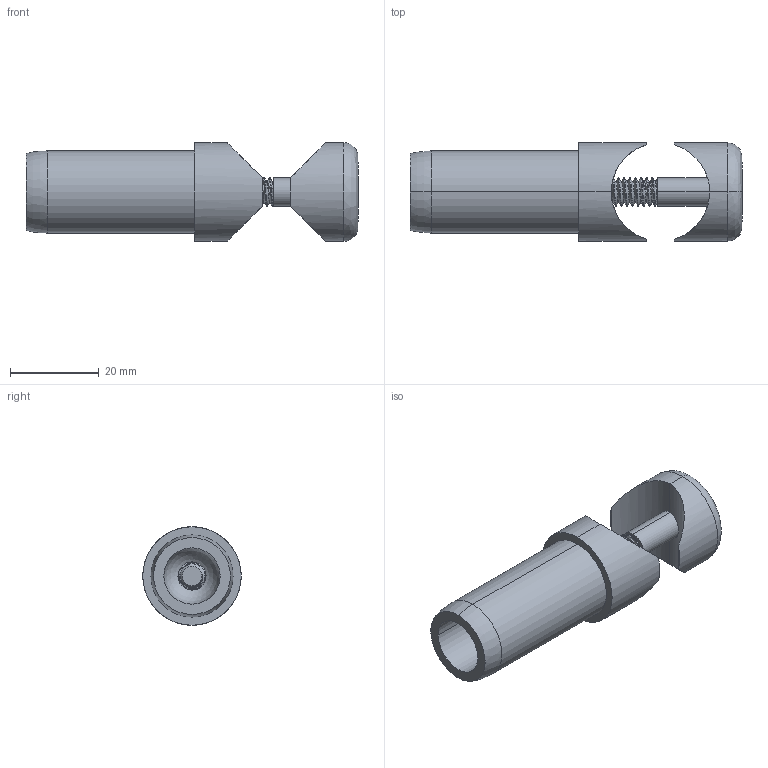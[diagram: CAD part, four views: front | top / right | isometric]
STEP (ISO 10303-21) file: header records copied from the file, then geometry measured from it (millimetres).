
FILE_DESCRIPTION (( 'STEP AP203' ), '1' );
FILE_NAME ('FDPCK-MC.75-TEE.step', '2019-09-11T18:33:00', ( 'ydmin' ), ( '' ), 'SwSTEP 2.0', 'SolidWorks 2017', '' );
FILE_SCHEMA (( 'CONFIG_CONTROL_DESIGN' ));
Length unit declared in the file: inch
Products named in the file (1): FDPCK-MC.75-TEE
Bounding box: 74.93 x 22.23 x 22.23 mm (x, y, z)
Volume: 13323.7 mm3; surface area: 8345.9 mm2
Topology: 3 solids, 3 shells, 140 faces, 370 edges, 237 vertices
Faces by surface type: cylinder 99, plane 17, cone 15, bspline 6, torus 2, sphere 1
Entity records: 7728 total; most frequent: CARTESIAN_POINT 4719, ORIENTED_EDGE 736, DIRECTION 505, EDGE_CURVE 368, VERTEX_POINT 236, AXIS2_PLACEMENT_3D 192, EDGE_LOOP 146, ADVANCED_FACE 140
